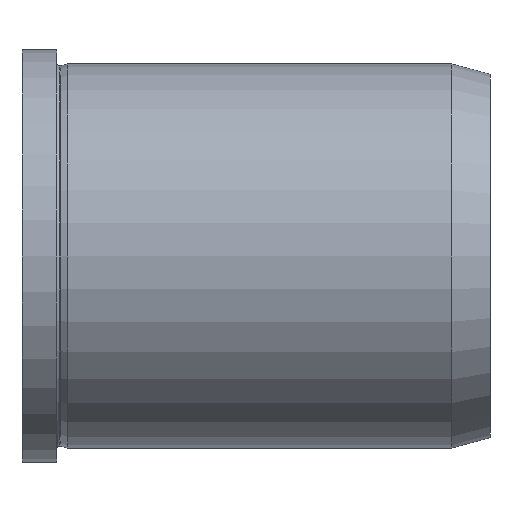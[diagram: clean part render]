
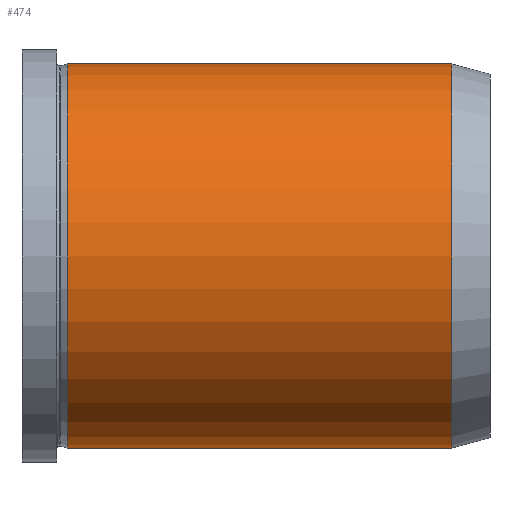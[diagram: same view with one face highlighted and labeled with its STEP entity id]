
A CAD part, left-side view. The second image highlights one B-rep face of the part: STEP entity #474.
In plain terms, the highlighted cylindrical face has radius 27.5 mm (diameter 55 mm), a partial arc.
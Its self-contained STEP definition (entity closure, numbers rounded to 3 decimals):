
#52 = CIRCLE ( 'NONE', #443, 27.5 ) ;
#66 = DIRECTION ( 'NONE',  ( 0., 0., -1. ) ) ;
#85 = LINE ( 'NONE', #194, #328 ) ;
#118 = CARTESIAN_POINT ( 'NONE',  ( 0., 5.5, 27.5 ) ) ;
#139 = EDGE_CURVE ( 'NONE', #584, #451, #629, .T. ) ;
#145 = DIRECTION ( 'NONE',  ( 0., 0., -1. ) ) ;
#172 = CARTESIAN_POINT ( 'NONE',  ( 0., 5.5, -27.5 ) ) ;
#182 = EDGE_CURVE ( 'NONE', #409, #584, #385, .T. ) ;
#185 = DIRECTION ( 'NONE',  ( 0., -1., 0. ) ) ;
#189 = ORIENTED_EDGE ( 'NONE', *, *, #597, .F. ) ;
#191 = ORIENTED_EDGE ( 'NONE', *, *, #272, .F. ) ;
#194 = CARTESIAN_POINT ( 'NONE',  ( 0., 0., 27.5 ) ) ;
#197 = DIRECTION ( 'NONE',  ( 0., -1., 0. ) ) ;
#221 = DIRECTION ( 'NONE',  ( 0., -1., 0. ) ) ;
#263 = AXIS2_PLACEMENT_3D ( 'NONE', #583, #185, #581 ) ;
#272 = EDGE_CURVE ( 'NONE', #409, #454, #85, .T. ) ;
#328 = VECTOR ( 'NONE', #197, 1000. ) ;
#373 = FACE_OUTER_BOUND ( 'NONE', #544, .T. ) ;
#385 = CIRCLE ( 'NONE', #263, 27.5 ) ;
#407 = CARTESIAN_POINT ( 'NONE',  ( 0., 60.478, -27.5 ) ) ;
#409 = VERTEX_POINT ( 'NONE', #513 ) ;
#433 = DIRECTION ( 'NONE',  ( 0., -1., 0. ) ) ;
#437 = CYLINDRICAL_SURFACE ( 'NONE', #596, 27.5 ) ;
#443 = AXIS2_PLACEMENT_3D ( 'NONE', #539, #445, #145 ) ;
#445 = DIRECTION ( 'NONE',  ( 0., -1., 0. ) ) ;
#451 = VERTEX_POINT ( 'NONE', #172 ) ;
#454 = VERTEX_POINT ( 'NONE', #118 ) ;
#471 = VECTOR ( 'NONE', #221, 1000. ) ;
#474 = ADVANCED_FACE ( 'NONE', ( #373 ), #437, .T. ) ;
#513 = CARTESIAN_POINT ( 'NONE',  ( 0., 60.478, 27.5 ) ) ;
#537 = CARTESIAN_POINT ( 'NONE',  ( 0., 0., -27.5 ) ) ;
#539 = CARTESIAN_POINT ( 'NONE',  ( 0., 5.5, 0. ) ) ;
#544 = EDGE_LOOP ( 'NONE', ( #191, #656, #579, #189 ) ) ;
#576 = CARTESIAN_POINT ( 'NONE',  ( 0., 0., 0. ) ) ;
#579 = ORIENTED_EDGE ( 'NONE', *, *, #139, .T. ) ;
#581 = DIRECTION ( 'NONE',  ( 0., 0., -1. ) ) ;
#583 = CARTESIAN_POINT ( 'NONE',  ( 0., 60.478, 0. ) ) ;
#584 = VERTEX_POINT ( 'NONE', #407 ) ;
#596 = AXIS2_PLACEMENT_3D ( 'NONE', #576, #433, #66 ) ;
#597 = EDGE_CURVE ( 'NONE', #454, #451, #52, .T. ) ;
#629 = LINE ( 'NONE', #537, #471 ) ;
#656 = ORIENTED_EDGE ( 'NONE', *, *, #182, .T. ) ;
